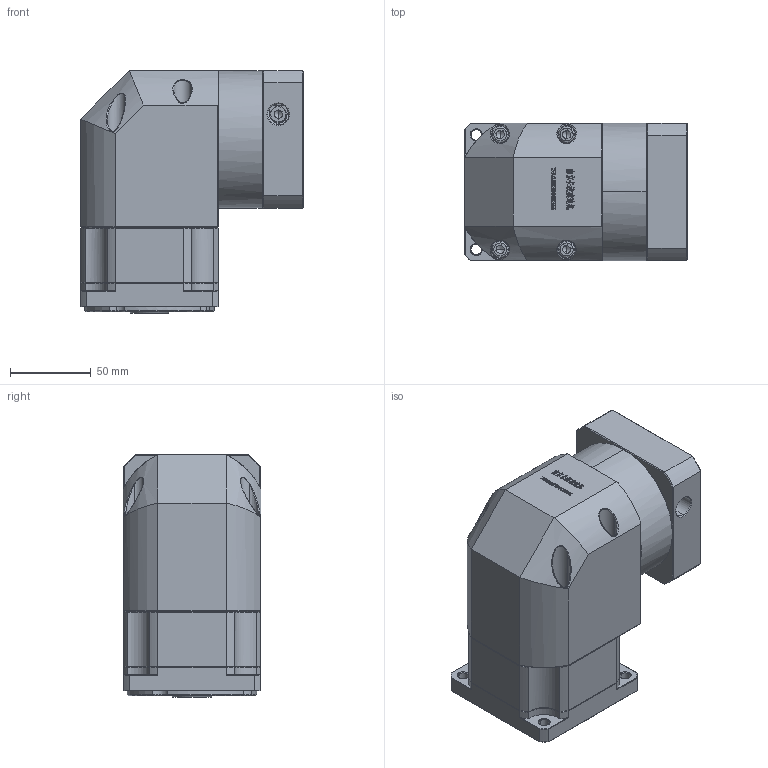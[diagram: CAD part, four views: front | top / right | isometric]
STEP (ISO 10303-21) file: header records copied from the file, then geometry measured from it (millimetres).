
FILE_DESCRIPTION (( 'STEP AP214' ), '1' );
FILE_NAME ('ZBR90-K15-L1-19-70-90-M6.STEP', '2022-05-07T14:50:15', ( '' ), ( 'Microsoft' ), 'SwSTEP 2.0', 'SolidWorks 2016', '' );
FILE_SCHEMA (( 'AUTOMOTIVE_DESIGN' ));
Length unit declared in the file: millimetre
Products named in the file (1): ZBR90-K15-L1-19-70-90-M6
Bounding box: 137.6 x 85 x 150 mm (x, y, z)
Volume: 1169143.3 mm3; surface area: 128413 mm2
Topology: 5 solids, 5 shells, 2944 faces, 7800 edges, 4989 vertices
Faces by surface type: plane 1570, bspline 596, cylinder 409, cone 345, torus 24
Entity records: 157499 total; most frequent: CARTESIAN_POINT 56755, ORIENTED_EDGE 15528, DIRECTION 11869, EDGE_CURVE 7764, LINE 5225, VECTOR 5225, VERTEX_POINT 4989, AXIS2_PLACEMENT_3D 3322
